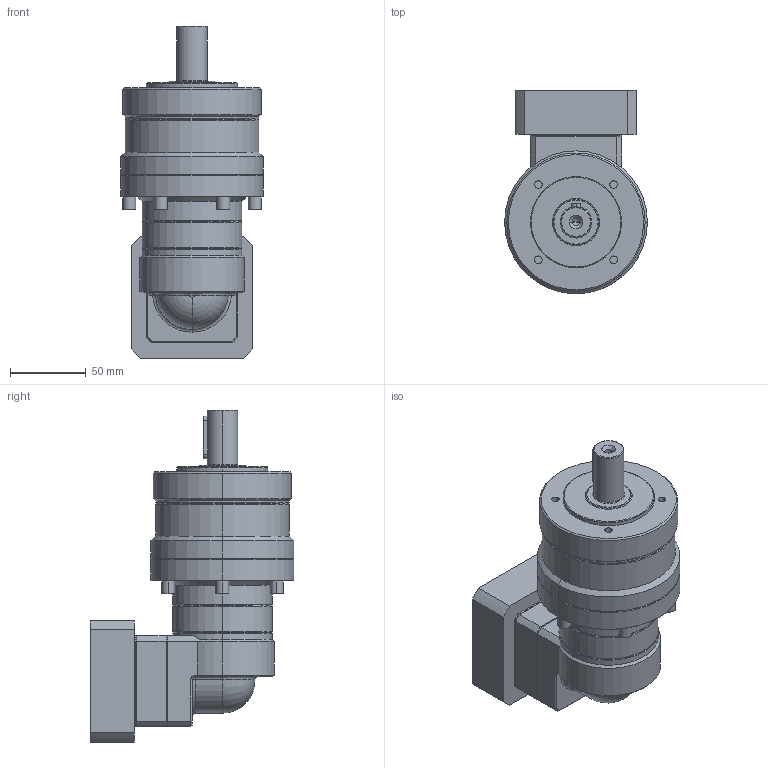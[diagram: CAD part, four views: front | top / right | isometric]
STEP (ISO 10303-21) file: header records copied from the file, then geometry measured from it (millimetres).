
FILE_DESCRIPTION (( 'STEP AP214' ), '1' );
FILE_NAME ('FER090-L2-S2-P2 19-70-90-M6.STEP', '2025-02-19T02:11:58', ( '微软用户' ), ( '微软中国' ), 'SwSTEP 2.0', 'SolidWorks 2021', '' );
FILE_SCHEMA (( 'AUTOMOTIVE_DESIGN' ));
Length unit declared in the file: millimetre
Products named in the file (1): FER090-L2-S2-P2 19-70-90-M6
Bounding box: 94 x 134 x 218.5 mm (x, y, z)
Volume: 993448.4 mm3; surface area: 90514.7 mm2
Topology: 1 solids, 1 shells, 267 faces, 599 edges, 361 vertices
Faces by surface type: plane 110, cylinder 87, cone 52, torus 14, sphere 2, bspline 2
Entity records: 7762 total; most frequent: CARTESIAN_POINT 1695, DIRECTION 1320, ORIENTED_EDGE 1190, EDGE_CURVE 595, AXIS2_PLACEMENT_3D 502, VERTEX_POINT 361, LINE 316, VECTOR 316
